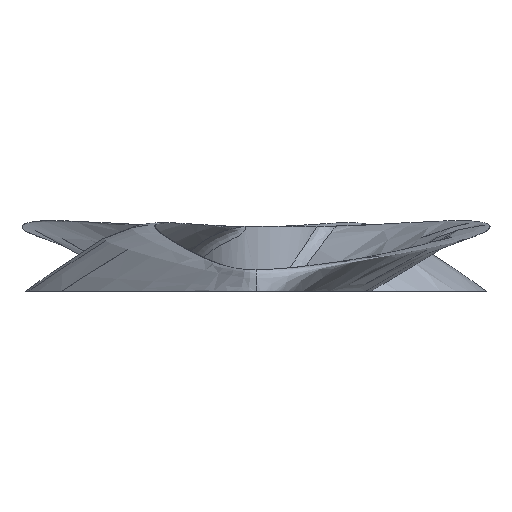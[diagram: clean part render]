
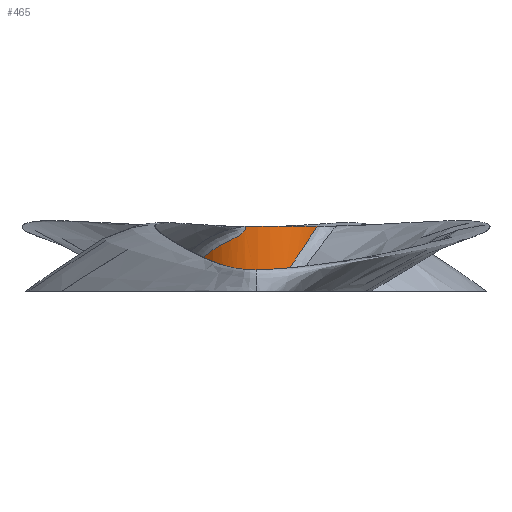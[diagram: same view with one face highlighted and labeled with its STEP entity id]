
A CAD part, front view. The second image highlights one B-rep face of the part: STEP entity #465.
In plain terms, the highlighted cylindrical face has radius 6.5 mm (diameter 13 mm), a partial arc.
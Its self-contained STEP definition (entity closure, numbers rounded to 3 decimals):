
#65=FACE_OUTER_BOUND('',#90,.T.);
#90=EDGE_LOOP('',(#354,#355,#356,#357));
#113=CIRCLE('',#505,6.5);
#114=CIRCLE('',#506,6.5);
#147=B_SPLINE_CURVE_WITH_KNOTS('',3,(#1884,#1885,#1886,#1887,#1888,#1889,
#1890,#1891,#1892,#1893,#1894,#1895,#1896,#1897,#1898,#1899,#1900,#1901,
#1902,#1903,#1904,#1905,#1906,#1907,#1908,#1909,#1910,#1911,#1912,#1913),
 .UNSPECIFIED.,.F.,.F.,(4,1,1,1,1,1,1,1,1,1,1,1,1,1,1,1,1,1,1,1,1,1,1,1,
1,1,1,4),(-2.506,-2.477,-2.445,-2.413,
-2.38,-2.348,-2.316,-2.284,
-2.251,-2.219,-2.187,-2.155,
-2.122,-2.09,-2.058,-1.993,
-1.929,-1.864,-1.8,-1.735,
-1.671,-1.606,-1.542,-1.509,
-1.477,-1.461,-1.445,-1.44),
 .UNSPECIFIED.);
#158=B_SPLINE_CURVE_WITH_KNOTS('',3,(#2334,#2335,#2336,#2337,#2338,#2339,
#2340,#2341),.UNSPECIFIED.,.F.,.F.,(4,1,1,2,4),(-0.787,-0.659,
-0.22,0.,0.087),.UNSPECIFIED.);
#194=VERTEX_POINT('',#1820);
#197=VERTEX_POINT('',#1871);
#206=VERTEX_POINT('',#2318);
#207=VERTEX_POINT('',#2333);
#250=EDGE_CURVE('',#197,#194,#147,.T.);
#261=EDGE_CURVE('',#206,#207,#158,.T.);
#269=EDGE_CURVE('',#197,#207,#113,.T.);
#270=EDGE_CURVE('',#194,#206,#114,.T.);
#354=ORIENTED_EDGE('',*,*,#269,.T.);
#355=ORIENTED_EDGE('',*,*,#261,.F.);
#356=ORIENTED_EDGE('',*,*,#270,.F.);
#357=ORIENTED_EDGE('',*,*,#250,.F.);
#448=CYLINDRICAL_SURFACE('',#504,6.5);
#465=ADVANCED_FACE('',(#65),#448,.T.);
#504=AXIS2_PLACEMENT_3D('',#2403,#549,#550);
#505=AXIS2_PLACEMENT_3D('',#2404,#551,#552);
#506=AXIS2_PLACEMENT_3D('',#2405,#553,#554);
#549=DIRECTION('center_axis',(0.,0.,1.));
#550=DIRECTION('ref_axis',(1.,0.,0.));
#551=DIRECTION('center_axis',(0.,0.,1.));
#552=DIRECTION('ref_axis',(1.,0.,0.));
#553=DIRECTION('center_axis',(0.,0.,1.));
#554=DIRECTION('ref_axis',(1.,0.,0.));
#1820=CARTESIAN_POINT('',(-0.959,-6.429,6.));
#1871=CARTESIAN_POINT('',(-6.241,-1.816,0.));
#1884=CARTESIAN_POINT('Ctrl Pts',(-6.241,-1.816,0.));
#1885=CARTESIAN_POINT('Ctrl Pts',(-6.227,-1.864,0.077));
#1886=CARTESIAN_POINT('Ctrl Pts',(-6.196,-1.968,0.239));
#1887=CARTESIAN_POINT('Ctrl Pts',(-6.142,-2.131,0.482));
#1888=CARTESIAN_POINT('Ctrl Pts',(-6.079,-2.304,0.729));
#1889=CARTESIAN_POINT('Ctrl Pts',(-6.009,-2.48,0.97));
#1890=CARTESIAN_POINT('Ctrl Pts',(-5.932,-2.659,1.204));
#1891=CARTESIAN_POINT('Ctrl Pts',(-5.848,-2.841,1.432));
#1892=CARTESIAN_POINT('Ctrl Pts',(-5.755,-3.024,1.654));
#1893=CARTESIAN_POINT('Ctrl Pts',(-5.655,-3.208,1.868));
#1894=CARTESIAN_POINT('Ctrl Pts',(-5.546,-3.392,2.076));
#1895=CARTESIAN_POINT('Ctrl Pts',(-5.429,-3.577,2.278));
#1896=CARTESIAN_POINT('Ctrl Pts',(-5.302,-3.762,2.474));
#1897=CARTESIAN_POINT('Ctrl Pts',(-5.167,-3.946,2.664));
#1898=CARTESIAN_POINT('Ctrl Pts',(-5.022,-4.129,2.848));
#1899=CARTESIAN_POINT('Ctrl Pts',(-4.817,-4.369,3.085));
#1900=CARTESIAN_POINT('Ctrl Pts',(-4.539,-4.662,3.364));
#1901=CARTESIAN_POINT('Ctrl Pts',(-4.171,-4.994,3.673));
#1902=CARTESIAN_POINT('Ctrl Pts',(-3.773,-5.301,3.956));
#1903=CARTESIAN_POINT('Ctrl Pts',(-3.344,-5.582,4.218));
#1904=CARTESIAN_POINT('Ctrl Pts',(-2.886,-5.832,4.46));
#1905=CARTESIAN_POINT('Ctrl Pts',(-2.408,-6.045,4.688));
#1906=CARTESIAN_POINT('Ctrl Pts',(-1.909,-6.221,4.92));
#1907=CARTESIAN_POINT('Ctrl Pts',(-1.5,-6.328,5.148));
#1908=CARTESIAN_POINT('Ctrl Pts',(-1.199,-6.39,5.394));
#1909=CARTESIAN_POINT('Ctrl Pts',(-1.035,-6.417,5.588));
#1910=CARTESIAN_POINT('Ctrl Pts',(-0.951,-6.43,5.784));
#1911=CARTESIAN_POINT('Ctrl Pts',(-0.944,-6.431,
5.914));
#1912=CARTESIAN_POINT('Ctrl Pts',(-0.955,-6.429,
5.983));
#1913=CARTESIAN_POINT('Ctrl Pts',(-0.959,-6.429,
6.));
#2318=CARTESIAN_POINT('',(5.627,-3.254,6.));
#2333=CARTESIAN_POINT('',(1.26,-6.377,0.));
#2334=CARTESIAN_POINT('Ctrl Pts',(5.627,-3.254,5.999));
#2335=CARTESIAN_POINT('Ctrl Pts',(5.472,-3.521,5.762));
#2336=CARTESIAN_POINT('Ctrl Pts',(4.732,-4.599,4.596));
#2337=CARTESIAN_POINT('Ctrl Pts',(3.494,-5.596,2.642));
#2338=CARTESIAN_POINT('Ctrl Pts',(2.257,-6.114,1.082));
#2339=CARTESIAN_POINT('Ctrl Pts',(1.636,-6.293,0.38));
#2340=CARTESIAN_POINT('Ctrl Pts',(1.452,-6.339,0.185));
#2341=CARTESIAN_POINT('Ctrl Pts',(1.26,-6.377,0.));
#2403=CARTESIAN_POINT('Origin',(0.,0.,0.));
#2404=CARTESIAN_POINT('Origin',(0.,0.,0.));
#2405=CARTESIAN_POINT('Origin',(0.,0.,6.));
